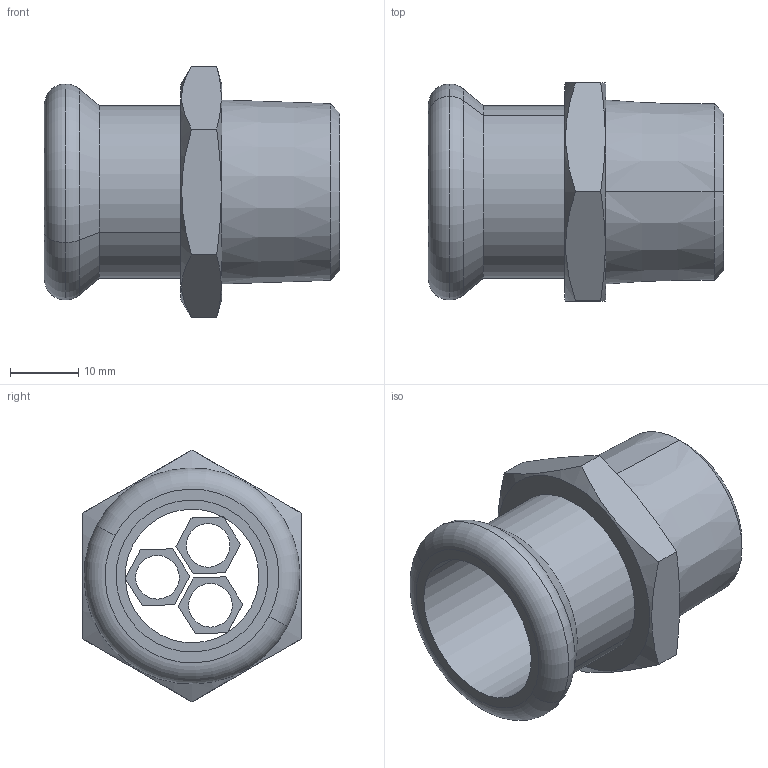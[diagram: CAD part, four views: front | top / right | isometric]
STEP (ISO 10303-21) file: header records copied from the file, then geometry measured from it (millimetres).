
FILE_DESCRIPTION(('OneSpaceDesigner STEP Export'),'2;1');
FILE_NAME('R2705 22xR3-4.stp','2010-06-09T10:43:39',(''),(''),'OneSpace Designer STEP processor for AP214 (Solid Model)','OneSpace Modeling 15.00A 14-Mar-2007 (C) CoCreate Software GmbH','');
FILE_SCHEMA(('AUTOMOTIVE_DESIGN { 1 0 10303 214 1 1 1 1 }'));
Length unit declared in the file: millimetre
Products named in the file (2): R2705_22xR3-4
Assembly tree (1 placements, depth 2):
  R2705_22xR3-4
    R2705_22xR3-4
Bounding box: 43.3 x 32 x 36.95 mm (x, y, z)
Volume: 11221.1 mm3; surface area: 8348.4 mm2
Topology: 1 solids, 1 shells, 70 faces, 176 edges, 115 vertices
Faces by surface type: plane 39, cylinder 17, cone 10, torus 4
Entity records: 2770 total; most frequent: CARTESIAN_POINT 1159, ORIENTED_EDGE 352, DIRECTION 277, EDGE_CURVE 176, VERTEX_POINT 115, VECTOR 99, LINE 99, AXIS2_PLACEMENT_3D 89
